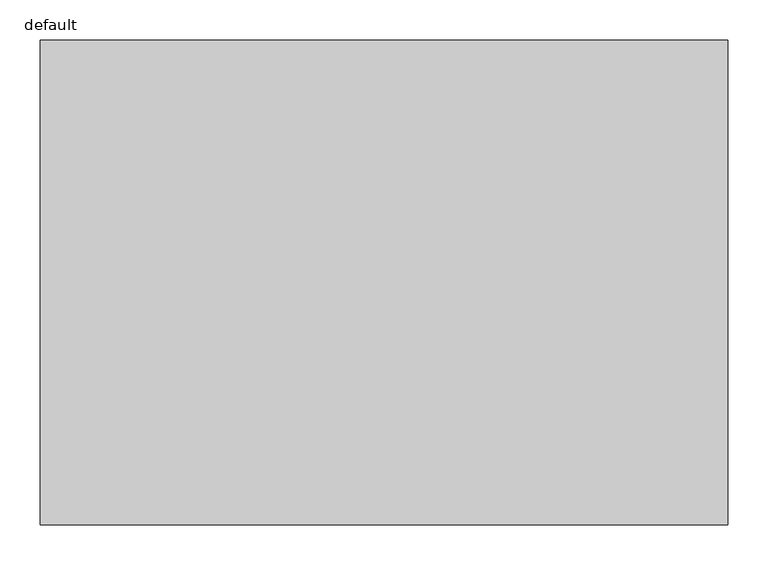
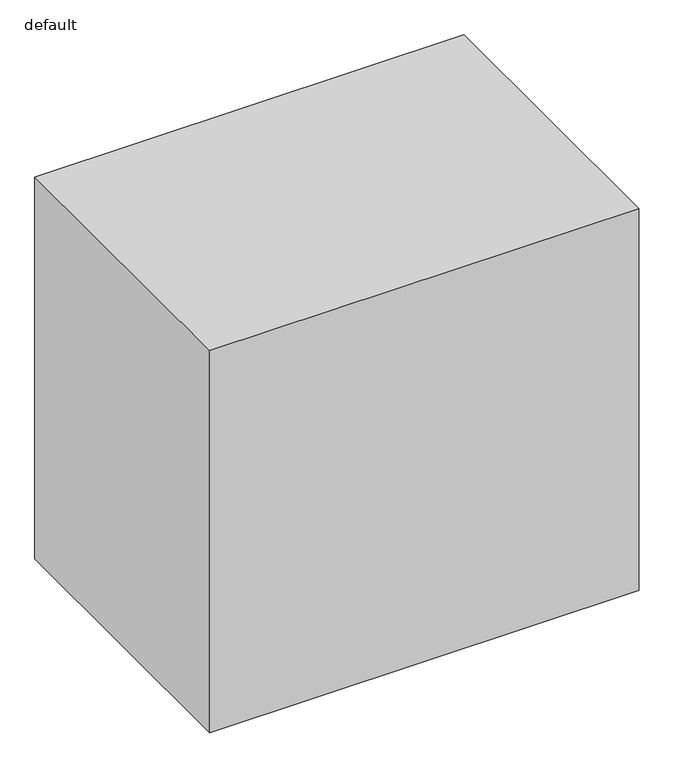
"""IFC4 building model written with IfcOpenShell, lengths in millimetres: furniture geometry, Fu_кухонный напольный модуль_LEG : default."""

from ifc_helpers import new_model, si_unit, origin, origin_with_axes, place, context, project, spatial, polyline, outline, extrude, source, transform, mapped, element, save


def default_10b48312(model_context):
    return source(origin(), model_context, "Body", "SweptSolid", [
        extrude(outline(polyline([(850.0, 0.0), (0.0, 0.0), (0.0, 600.0), (850.0, 600.0), (850.0, 0.0)])), origin_with_axes(), (0.0, 0.0, 1.0), 800.0),
    ])


if __name__ == "__main__":
    model = new_model("IFC4")
    model_context = context("Model", 3, world=origin())
    ifc_project = project(units=[si_unit("LENGTHUNIT", "METRE", prefix="MILLI")], contexts=[model_context])
    site = spatial("IfcSite", under=ifc_project)
    building = spatial("IfcBuilding", under=site)
    placement = place(None, origin())
    default_shape = default_10b48312(model_context)
    element("IfcFurniture", 1, ObjectType="Fu_кухонный напольный модуль_LEG : default", at=placement, inside=building, context=model_context, shape_type="MappedRepresentation", body=[
        mapped(default_shape, transform((0.0, 0.0, 0.0), x_axis=(1.0, 0.0, 0.0), y_axis=(0.0, 1.0, 0.0), z_axis=(0.0, 0.0, 1.0))),
    ])
    save(model, "model.ifc")
